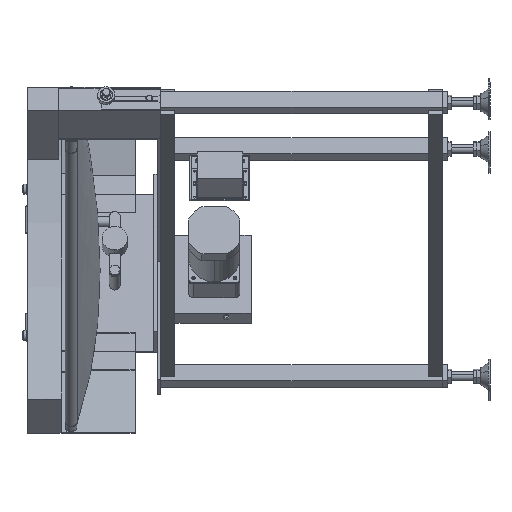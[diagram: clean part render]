
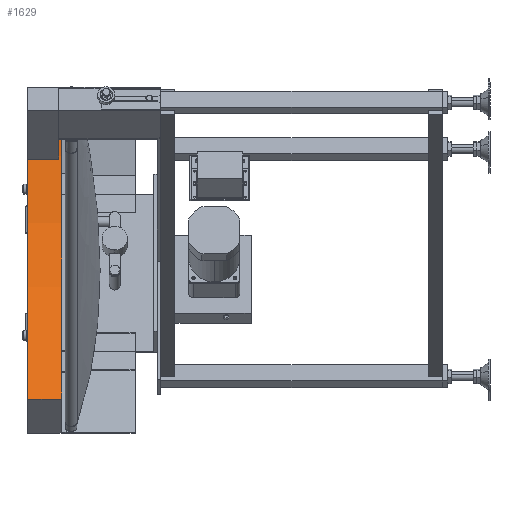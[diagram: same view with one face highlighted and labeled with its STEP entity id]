
A CAD part, left-side view. The second image highlights one B-rep face of the part: STEP entity #1629.
In plain terms, the highlighted cylindrical face has radius 780 mm (diameter 1560 mm), a partial arc.
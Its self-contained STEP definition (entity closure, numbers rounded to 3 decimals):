
#1629=ADVANCED_FACE('',(#4386),#4385,.F.);
#4385=CYLINDRICAL_SURFACE('',#15817,780.);
#4386=FACE_OUTER_BOUND('',#15818,.T.);
#15814=CARTESIAN_POINT('',(0.,0.,0.));
#15815=DIRECTION('',(0.,-1.,0.));
#15816=DIRECTION('',(-1.,0.,0.));
#15817=AXIS2_PLACEMENT_3D('',#15814,#15815,#15816);
#15818=EDGE_LOOP('',(#21487,#21488,#21489,#21490));
#21487=ORIENTED_EDGE('',*,*,#26082,.F.);
#21488=ORIENTED_EDGE('',*,*,#26083,.F.);
#21489=ORIENTED_EDGE('',*,*,#26084,.T.);
#21490=ORIENTED_EDGE('',*,*,#26059,.F.);
#26059=EDGE_CURVE('',#31171,#31172,#31173,.T.);
#26082=EDGE_CURVE('',#31332,#31171,#31333,.T.);
#26083=EDGE_CURVE('',#31339,#31332,#31340,.T.);
#26084=EDGE_CURVE('',#31339,#31172,#31346,.T.);
#31171=VERTEX_POINT('',#47971);
#31172=VERTEX_POINT('',#47972);
#31173=CIRCLE('',#47976,780.);
#31332=VERTEX_POINT('',#48071);
#31333=LINE('',#48072,#48073);
#31339=VERTEX_POINT('',#48075);
#31340=CIRCLE('',#48079,780.);
#31346=LINE('',#48080,#48081);
#47971=CARTESIAN_POINT('',(551.543,68.,-551.543));
#47972=CARTESIAN_POINT('',(780.,68.,0.));
#47973=CARTESIAN_POINT('',(0.,68.,0.));
#47974=DIRECTION('',(0.,-1.,0.));
#47975=DIRECTION('',(-1.,0.,0.));
#47976=AXIS2_PLACEMENT_3D('',#47973,#47974,#47975);
#48071=CARTESIAN_POINT('',(551.543,8.,-551.543));
#48072=CARTESIAN_POINT('',(551.543,8.,-551.543));
#48073=VECTOR('',#48074,60.);
#48074=DIRECTION('',(0.,1.,0.));
#48075=CARTESIAN_POINT('',(780.,8.,0.));
#48076=CARTESIAN_POINT('',(0.,8.,0.));
#48077=DIRECTION('',(0.,1.,0.));
#48078=DIRECTION('',(1.,0.,0.));
#48079=AXIS2_PLACEMENT_3D('',#48076,#48077,#48078);
#48080=CARTESIAN_POINT('',(780.,8.,0.));
#48081=VECTOR('',#48082,60.);
#48082=DIRECTION('',(0.,1.,0.));
